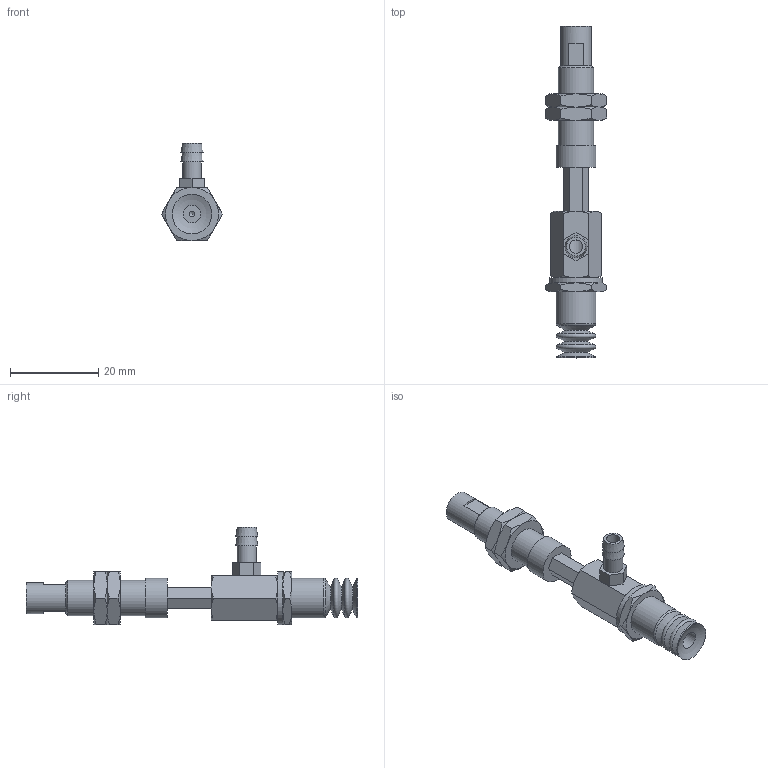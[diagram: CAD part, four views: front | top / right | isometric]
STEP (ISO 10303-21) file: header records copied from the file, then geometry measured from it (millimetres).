
FILE_DESCRIPTION(('STEP AP203'),'1');
FILE_NAME('-T.stp','2025-04-04T00:53:22',(' '),(' '),'Spatial InterOp 3D',' ',' ');
FILE_SCHEMA(('CONFIG_CONTROL_DESIGN'));
Length unit declared in the file: millimetre
Products named in the file (8): BNABPCYH-10-10-※-T; Adapter_napc-10-T; Connector_h-10-10; Nut napc_h-10-10; NAPCTH-10-10-FBODY; NAPCTH-10-10-MBODY; BPCG-10-※; T
Assembly tree (8 placements, depth 2):
  BNABPCYH-10-10-※-T
    Adapter_napc-10-T
    Connector_h-10-10
    Nut napc_h-10-10  x2
    NAPCTH-10-10-FBODY
    NAPCTH-10-10-MBODY
    BPCG-10-※
    T
Bounding box: 13.86 x 75.2 x 22 mm (x, y, z)
Volume: 4656.3 mm3; surface area: 5372.3 mm2
Topology: 8 solids, 8 shells, 187 faces, 393 edges, 235 vertices
Faces by surface type: plane 83, cone 72, cylinder 22, torus 8, sphere 2
Full cylindrical faces by diameter (mm): 1.25 x1, 3 x1, 4 x1, 4.134 x3, 4.3 x1, 5 x7, 7 x1, 7.188 x2, 8 x1, 9 x3, 12 x1
Entity records: 4842 total; most frequent: CARTESIAN_POINT 1202, DIRECTION 674, ORIENTED_EDGE 580, EDGE_CURVE 290, AXIS2_PLACEMENT_3D 287, EDGE_LOOP 240, VERTEX_POINT 205, FACE_OUTER_BOUND 195
